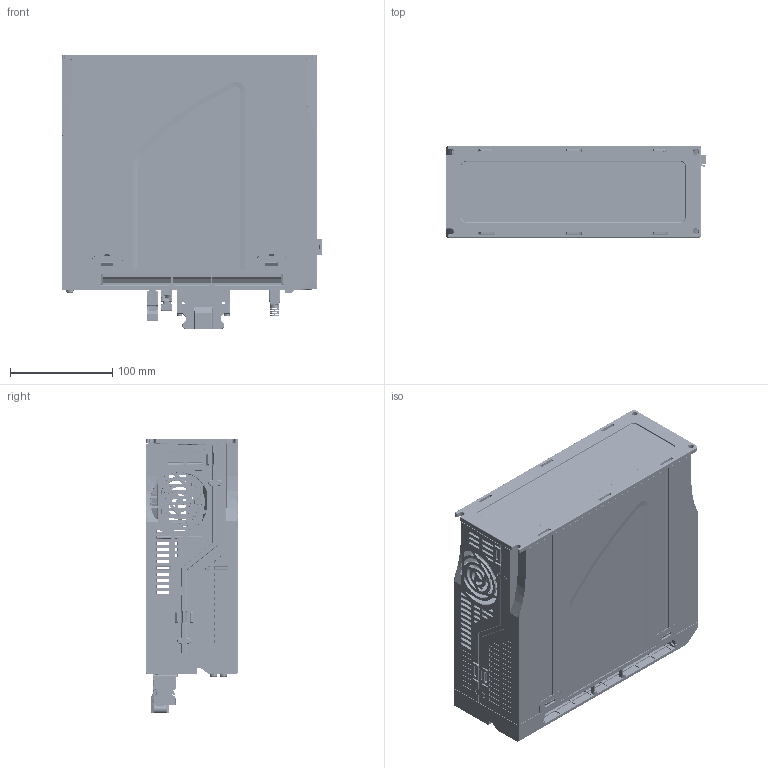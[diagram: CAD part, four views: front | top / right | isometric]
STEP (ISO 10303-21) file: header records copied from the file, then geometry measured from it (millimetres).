
FILE_DESCRIPTION((''),'2;1');
FILE_NAME('00_ASM','2025-04-16T14:59:46',('ms27526'),(''),'CREO PARAMETRIC BY PTC INC, 2018100','CREO PARAMETRIC BY PTC INC, 2018100','');
FILE_SCHEMA(('CONFIG_CONTROL_DESIGN'));
Products named in the file (33): 42191220014280001; 369820110218600; 369820110218500; 3698201102261RS48500; 369820110218800; 0002; C-2013595-1-B-3D_1; USB_; STO0001; 2257000; 6362-08MDHSXMCBA1; BOARD; M2E554451019M2E; J3_ASM; SHIELDING; INSULATOR; INSULATOR_2; 7499021125_ASM; J1_ASM; 529865079-2014_9_28; CN2_ASM; 230690048; CN1_ASM; MINI-5PIN90_1_0001; 4718405010429_ASM; J2_ASM; C-2294415-1-C-3D; J4_ASM; PCB_ASM; 4713101004295-B0_1206_ASM; R0001; 0003; 00_ASM
Assembly tree (34 placements, depth 6):
  00_ASM
    42191220014280001
    369820110218600
    369820110218500
    3698201102261RS48500
    369820110218800
    0002
    C-2013595-1-B-3D_1
    USB_
    STO0001
    2257000
    6362-08MDHSXMCBA1
    4713101004295-B0_1206_ASM
      PCB_ASM
        BOARD
        J3_ASM
          M2E554451019M2E
        J1_ASM
          7499021125_ASM
            SHIELDING
            INSULATOR
            INSULATOR_2  x2
        CN2_ASM
          529865079-2014_9_28
        CN1_ASM
          230690048
        J2_ASM
          4718405010429_ASM
            MINI-5PIN90_1_0001
        J4_ASM
          C-2294415-1-C-3D
    R0001
    0003  x2
Bounding box: 255.23 x 90.17 x 268.7 mm (x, y, z)
Volume: 752351.7 mm3; surface area: 618712.9 mm2
Topology: 20 solids, 97 shells, 18918 faces, 52571 edges, 33845 vertices
Faces by surface type: plane 12896, cylinder 4049, bspline 951, torus 295, cone 274, extrusion 255, sphere 198
Entity records: 657390 total; most frequent: CARTESIAN_POINT 181853, ORIENTED_EDGE 102533, DIRECTION 91505, EDGE_CURVE 51874, VECTOR 38945, LINE 38690, VERTEX_POINT 33545, AXIS2_PLACEMENT_3D 26280
